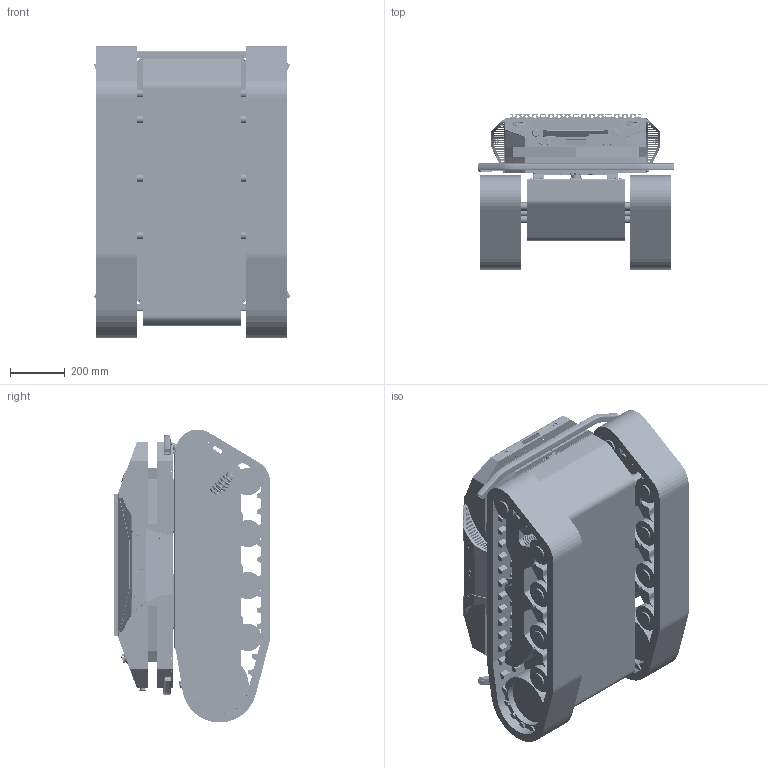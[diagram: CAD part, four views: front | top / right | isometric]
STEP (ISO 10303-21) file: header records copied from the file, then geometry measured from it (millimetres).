
FILE_DESCRIPTION (( 'STEP AP203' ), '1' );
FILE_NAME ('Soldier0427.STEP', '2023-04-27T08:54:54', ( '微软用户' ), ( '微软中国' ), 'SwSTEP 2.0', 'SolidWorks 2018', '' );
FILE_SCHEMA (( 'CONFIG_CONTROL_DESIGN' ));
Length unit declared in the file: millimetre
Products named in the file (248): ____MID-001____________1.STEP; cover_navi_side; ____MID-001__________.STEP; asm_CDOE_emergency_PCB_16mm; bumper_A46_outdoor_housing; WS32-9______.STEP; MID-001______-1.STEP; hexagon socket button head screws gb_PreviewCfg.STEP; hexagon socket countersunk head screws gb_PreviewCfg.STEP; Mallbot_wiring_board_YiJia_button_V1.5; MID-001__________-3.STEP; Mallbot_wiring_board_emergency_V1.5; LP20______________111.STEP; MID-01外发三维图20221118; Ultrasonic_103; speaker_PHILIPS_SPA2100陔唳邧耀; 秞砒盓殤陔; ____MID-001______2.STEP; ____MID-001______-11.STEP; YA-20座子防水圈; 20倰2.7譫渀; ____MID-001____________3.STEP; ____MID-001______-7.STEP; aluminum_extursion_15120_520; YA-20裔赽; MID-001______-4.STEP; ____MID-001________1.STEP; 噩砃cover_navi_side; ____MID-001________-6.STEP; LC5_1_colorless; housing_navi_upper; MID-001________-0.STEP; __________.STEP; PH_2.0_3P_female_vertical; MID-001______-1-2.STEP; XH_2.54_3P_female_vertical; _X2_5C0F6025505C5F005173_X0_.STEP; housing_navi_under; MID-001________.STEP; YiJia_LED_button_red_M16mm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
Assembly tree (176 placements, depth 7):
  cover_navi_side
  ____MID-001__________.STEP
  bumper_A46_outdoor_housing
  WS32-9______.STEP
  MID-001______-1.STEP
Bounding box: 719.67 x 569.9 x 1071.46 mm (x, y, z)
Volume: 132701452.8 mm3; surface area: 12750105.6 mm2
Topology: 217 solids, 218 shells, 12391 faces, 31735 edges, 20465 vertices
Faces by surface type: plane 6942, cylinder 4078, bspline 453, cone 423, torus 360, sphere 135
Entity records: 344564 total; most frequent: CARTESIAN_POINT 96373, ORIENTED_EDGE 47074, DIRECTION 45414, EDGE_CURVE 23538, AXIS2_PLACEMENT_3D 15695, VERTEX_POINT 15280, VECTOR 14024, LINE 14024
